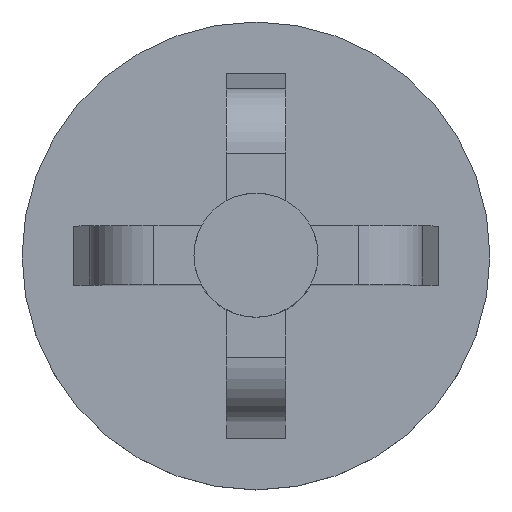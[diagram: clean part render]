
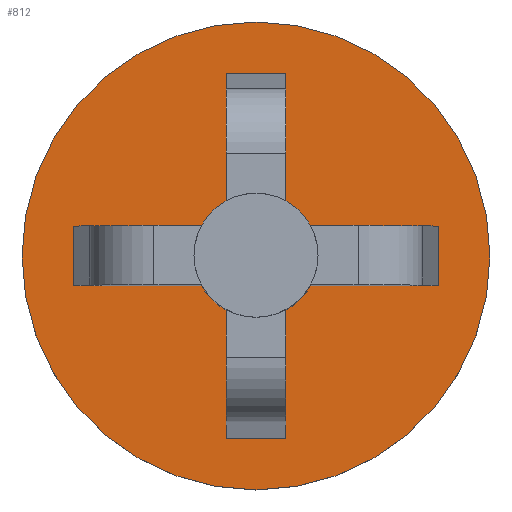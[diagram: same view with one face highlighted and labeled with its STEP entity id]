
A CAD part, top view. The second image highlights one B-rep face of the part: STEP entity #812.
In plain terms, the highlighted planar face has unit normal (0, 0, 1).
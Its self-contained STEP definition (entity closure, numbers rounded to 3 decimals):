
#2 = LINE ( 'NONE', #754, #955 ) ;
#3 = EDGE_LOOP ( 'NONE', ( #716, #904, #651, #853, #295, #959, #431, #262, #748, #136, #308, #728, #321, #703, #468, #771 ) ) ;
#12 = EDGE_CURVE ( 'NONE', #420, #692, #739, .T. ) ;
#20 = EDGE_CURVE ( 'NONE', #597, #515, #588, .T. ) ;
#35 = CARTESIAN_POINT ( 'NONE',  ( 721.25, 425.35, 2.8 ) ) ;
#47 = DIRECTION ( 'NONE',  ( 1., 0., 0. ) ) ;
#64 = EDGE_CURVE ( 'NONE', #622, #523, #927, .T. ) ;
#69 = CIRCLE ( 'NONE', #418, 9.05 ) ;
#70 = DIRECTION ( 'NONE',  ( 1., 0., 0. ) ) ;
#73 = VECTOR ( 'NONE', #837, 1000. ) ;
#75 = VECTOR ( 'NONE', #386, 1000. ) ;
#77 = VERTEX_POINT ( 'NONE', #80 ) ;
#79 = CARTESIAN_POINT ( 'NONE',  ( 730.3, 418.3, 2.8 ) ) ;
#80 = CARTESIAN_POINT ( 'NONE',  ( 719.143, 426.5, 2.8 ) ) ;
#84 = CARTESIAN_POINT ( 'NONE',  ( 721.25, 425.35, 2.8 ) ) ;
#87 = VERTEX_POINT ( 'NONE', #906 ) ;
#89 = CIRCLE ( 'NONE', #300, 2.4 ) ;
#100 = EDGE_CURVE ( 'NONE', #598, #465, #768, .T. ) ;
#107 = CIRCLE ( 'NONE', #897, 2.4 ) ;
#124 = CARTESIAN_POINT ( 'NONE',  ( 721.25, 425.35, 2.8 ) ) ;
#134 = LINE ( 'NONE', #805, #475 ) ;
#136 = ORIENTED_EDGE ( 'NONE', *, *, #12, .F. ) ;
#141 = CARTESIAN_POINT ( 'NONE',  ( 728.3, 424.2, 2.8 ) ) ;
#145 = CARTESIAN_POINT ( 'NONE',  ( 722.4, 427.457, 2.8 ) ) ;
#158 = VERTEX_POINT ( 'NONE', #400 ) ;
#178 = DIRECTION ( 'NONE',  ( 0., -1., 0. ) ) ;
#179 = DIRECTION ( 'NONE',  ( 0., 0., 1. ) ) ;
#214 = VERTEX_POINT ( 'NONE', #253 ) ;
#218 = CARTESIAN_POINT ( 'NONE',  ( 720.1, 418.3, 2.8 ) ) ;
#229 = CARTESIAN_POINT ( 'NONE',  ( 722.4, 418.3, 2.8 ) ) ;
#238 = DIRECTION ( 'NONE',  ( 0., 0., -1. ) ) ;
#253 = CARTESIAN_POINT ( 'NONE',  ( 714.2, 424.2, 2.8 ) ) ;
#261 = EDGE_CURVE ( 'NONE', #297, #622, #368, .T. ) ;
#262 = ORIENTED_EDGE ( 'NONE', *, *, #64, .T. ) ;
#267 = DIRECTION ( 'NONE',  ( 0., 1., 0. ) ) ;
#271 = ORIENTED_EDGE ( 'NONE', *, *, #100, .F. ) ;
#277 = DIRECTION ( 'NONE',  ( 0., 0., 1. ) ) ;
#281 = CARTESIAN_POINT ( 'NONE',  ( 721.25, 425.35, 2.8 ) ) ;
#282 = CARTESIAN_POINT ( 'NONE',  ( 728.3, 425.35, 2.8 ) ) ;
#293 = DIRECTION ( 'NONE',  ( 1., 0., 0. ) ) ;
#295 = ORIENTED_EDGE ( 'NONE', *, *, #625, .T. ) ;
#296 = VECTOR ( 'NONE', #859, 1000. ) ;
#297 = VERTEX_POINT ( 'NONE', #708 ) ;
#299 = DIRECTION ( 'NONE',  ( 0., 0., 1. ) ) ;
#300 = AXIS2_PLACEMENT_3D ( 'NONE', #281, #277, #47 ) ;
#308 = ORIENTED_EDGE ( 'NONE', *, *, #383, .T. ) ;
#312 = CARTESIAN_POINT ( 'NONE',  ( 730.3, 432.4, 2.8 ) ) ;
#321 = ORIENTED_EDGE ( 'NONE', *, *, #661, .T. ) ;
#336 = FACE_OUTER_BOUND ( 'NONE', #484, .T. ) ;
#338 = CARTESIAN_POINT ( 'NONE',  ( 723.357, 424.2, 2.8 ) ) ;
#351 = CARTESIAN_POINT ( 'NONE',  ( 730.3, 424.2, 2.8 ) ) ;
#355 = AXIS2_PLACEMENT_3D ( 'NONE', #35, #723, #951 ) ;
#359 = ORIENTED_EDGE ( 'NONE', *, *, #962, .F. ) ;
#365 = VECTOR ( 'NONE', #477, 1000. ) ;
#368 = LINE ( 'NONE', #637, #947 ) ;
#371 = EDGE_CURVE ( 'NONE', #842, #77, #564, .T. ) ;
#378 = CARTESIAN_POINT ( 'NONE',  ( 730.3, 424.2, 2.8 ) ) ;
#380 = LINE ( 'NONE', #351, #500 ) ;
#383 = EDGE_CURVE ( 'NONE', #420, #214, #380, .T. ) ;
#386 = DIRECTION ( 'NONE',  ( 1., 0., 0. ) ) ;
#400 = CARTESIAN_POINT ( 'NONE',  ( 714.2, 426.5, 2.8 ) ) ;
#409 = FACE_BOUND ( 'NONE', #3, .T. ) ;
#410 = CARTESIAN_POINT ( 'NONE',  ( 720.1, 425.35, 2.8 ) ) ;
#412 = CARTESIAN_POINT ( 'NONE',  ( 730.3, 426.5, 2.8 ) ) ;
#418 = AXIS2_PLACEMENT_3D ( 'NONE', #722, #492, #643 ) ;
#420 = VERTEX_POINT ( 'NONE', #584 ) ;
#431 = ORIENTED_EDGE ( 'NONE', *, *, #261, .T. ) ;
#444 = CARTESIAN_POINT ( 'NONE',  ( 728.3, 426.5, 2.8 ) ) ;
#458 = EDGE_CURVE ( 'NONE', #87, #646, #134, .T. ) ;
#465 = VERTEX_POINT ( 'NONE', #892 ) ;
#468 = ORIENTED_EDGE ( 'NONE', *, *, #826, .T. ) ;
#475 = VECTOR ( 'NONE', #665, 1000. ) ;
#477 = DIRECTION ( 'NONE',  ( 0., 1., 0. ) ) ;
#482 = VECTOR ( 'NONE', #619, 1000. ) ;
#484 = EDGE_LOOP ( 'NONE', ( #359, #271 ) ) ;
#492 = DIRECTION ( 'NONE',  ( 0., 0., -1. ) ) ;
#500 = VECTOR ( 'NONE', #797, 1000. ) ;
#501 = LINE ( 'NONE', #312, #75 ) ;
#515 = VERTEX_POINT ( 'NONE', #141 ) ;
#520 = DIRECTION ( 'NONE',  ( 0., 1., 0. ) ) ;
#523 = VERTEX_POINT ( 'NONE', #218 ) ;
#550 = CARTESIAN_POINT ( 'NONE',  ( 720.1, 432.4, 2.8 ) ) ;
#556 = LINE ( 'NONE', #412, #296 ) ;
#564 = CIRCLE ( 'NONE', #355, 2.4 ) ;
#567 = CARTESIAN_POINT ( 'NONE',  ( 720.1, 425.35, 2.8 ) ) ;
#570 = LINE ( 'NONE', #567, #365 ) ;
#583 = CARTESIAN_POINT ( 'NONE',  ( 723.357, 426.5, 2.8 ) ) ;
#584 = CARTESIAN_POINT ( 'NONE',  ( 719.143, 424.2, 2.8 ) ) ;
#588 = LINE ( 'NONE', #282, #595 ) ;
#594 = EDGE_CURVE ( 'NONE', #214, #158, #2, .T. ) ;
#595 = VECTOR ( 'NONE', #662, 1000. ) ;
#597 = VERTEX_POINT ( 'NONE', #444 ) ;
#598 = VERTEX_POINT ( 'NONE', #828 ) ;
#601 = AXIS2_PLACEMENT_3D ( 'NONE', #639, #179, #710 ) ;
#606 = EDGE_CURVE ( 'NONE', #297, #810, #107, .T. ) ;
#614 = DIRECTION ( 'NONE',  ( -1., 0., 0. ) ) ;
#619 = DIRECTION ( 'NONE',  ( -1., 0., 0. ) ) ;
#622 = VERTEX_POINT ( 'NONE', #229 ) ;
#625 = EDGE_CURVE ( 'NONE', #515, #810, #689, .T. ) ;
#637 = CARTESIAN_POINT ( 'NONE',  ( 722.4, 425.35, 2.8 ) ) ;
#639 = CARTESIAN_POINT ( 'NONE',  ( 730.3, 425.35, 2.8 ) ) ;
#643 = DIRECTION ( 'NONE',  ( 1., 0., 0. ) ) ;
#646 = VERTEX_POINT ( 'NONE', #145 ) ;
#651 = ORIENTED_EDGE ( 'NONE', *, *, #814, .T. ) ;
#654 = DIRECTION ( 'NONE',  ( 0., 0., 1. ) ) ;
#661 = EDGE_CURVE ( 'NONE', #158, #77, #679, .T. ) ;
#662 = DIRECTION ( 'NONE',  ( 0., -1., 0. ) ) ;
#665 = DIRECTION ( 'NONE',  ( 0., -1., 0. ) ) ;
#672 = VECTOR ( 'NONE', #267, 1000. ) ;
#677 = EDGE_CURVE ( 'NONE', #854, #87, #501, .T. ) ;
#679 = LINE ( 'NONE', #686, #73 ) ;
#686 = CARTESIAN_POINT ( 'NONE',  ( 730.3, 426.5, 2.8 ) ) ;
#689 = LINE ( 'NONE', #378, #482 ) ;
#692 = VERTEX_POINT ( 'NONE', #769 ) ;
#703 = ORIENTED_EDGE ( 'NONE', *, *, #371, .F. ) ;
#708 = CARTESIAN_POINT ( 'NONE',  ( 722.4, 423.243, 2.8 ) ) ;
#710 = DIRECTION ( 'NONE',  ( 1., 0., 0. ) ) ;
#716 = ORIENTED_EDGE ( 'NONE', *, *, #458, .T. ) ;
#722 = CARTESIAN_POINT ( 'NONE',  ( 721.25, 425.35, 2.8 ) ) ;
#723 = DIRECTION ( 'NONE',  ( 0., 0., 1. ) ) ;
#728 = ORIENTED_EDGE ( 'NONE', *, *, #594, .T. ) ;
#733 = CARTESIAN_POINT ( 'NONE',  ( 720.1, 427.457, 2.8 ) ) ;
#739 = CIRCLE ( 'NONE', #878, 2.4 ) ;
#743 = CARTESIAN_POINT ( 'NONE',  ( 721.25, 425.35, 2.8 ) ) ;
#748 = ORIENTED_EDGE ( 'NONE', *, *, #790, .T. ) ;
#754 = CARTESIAN_POINT ( 'NONE',  ( 714.2, 425.35, 2.8 ) ) ;
#763 = DIRECTION ( 'NONE',  ( 1., 0., 0. ) ) ;
#764 = AXIS2_PLACEMENT_3D ( 'NONE', #84, #238, #763 ) ;
#768 = CIRCLE ( 'NONE', #764, 9.05 ) ;
#769 = CARTESIAN_POINT ( 'NONE',  ( 720.1, 423.243, 2.8 ) ) ;
#771 = ORIENTED_EDGE ( 'NONE', *, *, #677, .T. ) ;
#776 = PLANE ( 'NONE',  #601 ) ;
#790 = EDGE_CURVE ( 'NONE', #523, #692, #570, .T. ) ;
#797 = DIRECTION ( 'NONE',  ( -1., 0., 0. ) ) ;
#805 = CARTESIAN_POINT ( 'NONE',  ( 722.4, 425.35, 2.8 ) ) ;
#810 = VERTEX_POINT ( 'NONE', #338 ) ;
#812 = ADVANCED_FACE ( 'NONE', ( #409, #336 ), #776, .T. ) ;
#814 = EDGE_CURVE ( 'NONE', #928, #597, #556, .T. ) ;
#826 = EDGE_CURVE ( 'NONE', #842, #854, #894, .T. ) ;
#828 = CARTESIAN_POINT ( 'NONE',  ( 712.2, 425.35, 2.8 ) ) ;
#837 = DIRECTION ( 'NONE',  ( 1., 0., 0. ) ) ;
#842 = VERTEX_POINT ( 'NONE', #733 ) ;
#853 = ORIENTED_EDGE ( 'NONE', *, *, #20, .T. ) ;
#854 = VERTEX_POINT ( 'NONE', #550 ) ;
#859 = DIRECTION ( 'NONE',  ( 1., 0., 0. ) ) ;
#878 = AXIS2_PLACEMENT_3D ( 'NONE', #124, #654, #293 ) ;
#892 = CARTESIAN_POINT ( 'NONE',  ( 730.3, 425.35, 2.8 ) ) ;
#894 = LINE ( 'NONE', #410, #672 ) ;
#897 = AXIS2_PLACEMENT_3D ( 'NONE', #743, #299, #70 ) ;
#901 = VECTOR ( 'NONE', #614, 1000. ) ;
#904 = ORIENTED_EDGE ( 'NONE', *, *, #917, .F. ) ;
#906 = CARTESIAN_POINT ( 'NONE',  ( 722.4, 432.4, 2.8 ) ) ;
#917 = EDGE_CURVE ( 'NONE', #928, #646, #89, .T. ) ;
#927 = LINE ( 'NONE', #79, #901 ) ;
#928 = VERTEX_POINT ( 'NONE', #583 ) ;
#947 = VECTOR ( 'NONE', #178, 1000. ) ;
#951 = DIRECTION ( 'NONE',  ( 1., 0., 0. ) ) ;
#955 = VECTOR ( 'NONE', #520, 1000. ) ;
#959 = ORIENTED_EDGE ( 'NONE', *, *, #606, .F. ) ;
#962 = EDGE_CURVE ( 'NONE', #465, #598, #69, .T. ) ;
